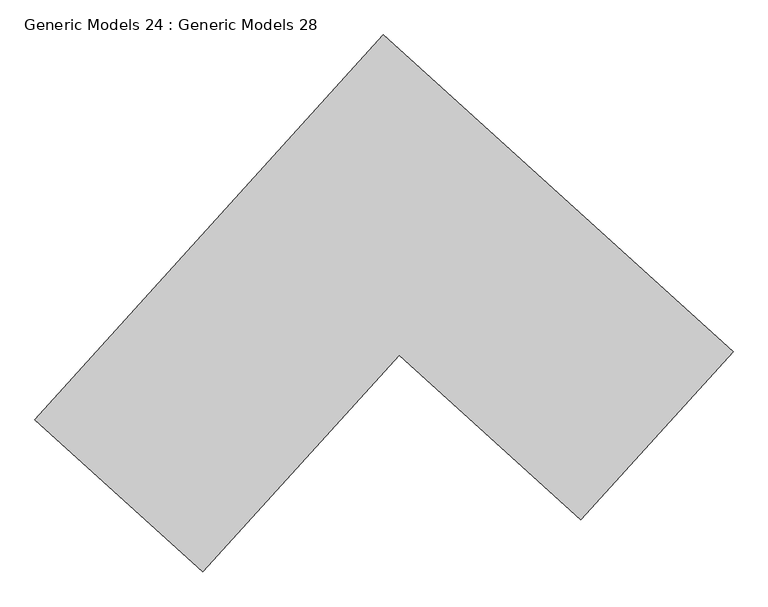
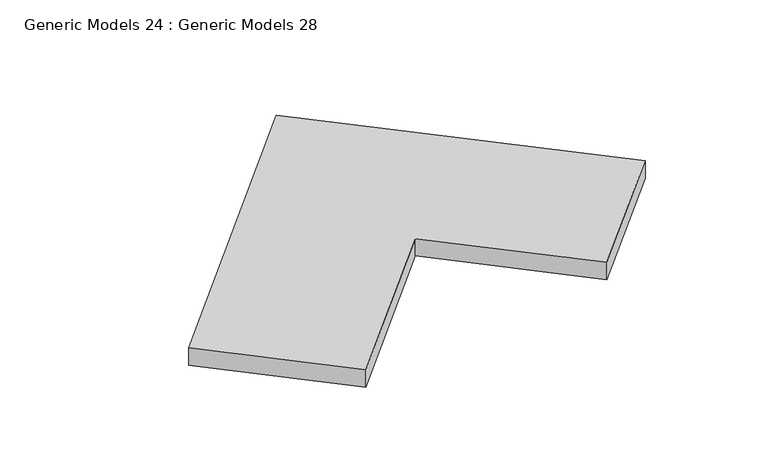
"""IFC4 building model written with IfcOpenShell, lengths in millimetres: proxy geometry, Generic Models 24 : Generic Models 28."""

from ifc_helpers import new_model, si_unit, frame, origin, place, context, project, spatial, polyline, outline, extrude, source, transform, mapped, element, save


def generic_models_24_generic_models_28_0ec2bc95(model_context):
    return source(origin(), model_context, "Body", "SweptSolid", [
        extrude(outline(polyline([(-9910.8597955, -1016.0691048), (-8985.0968278, -1854.3227621), (-9387.8187757, -2299.0867812), (-9868.8177243, -1863.5550718), (-10388.2547241, -2437.2185855), (-10833.0187432, -2034.4966376), (-9910.8597955, -1016.0691048)])), frame((0.0, 0.0, 830.0), z_axis=(0.0, 0.0, 1.0), x_axis=(1.0, 0.0, 0.0)), (0.0, 0.0, 1.0), 70.0),
    ])


if __name__ == "__main__":
    model = new_model("IFC4")
    model_context = context("Model", 3, world=origin())
    ifc_project = project(units=[si_unit("LENGTHUNIT", "METRE", prefix="MILLI")], contexts=[model_context])
    site = spatial("IfcSite", under=ifc_project)
    building = spatial("IfcBuilding", under=site)
    placement = place(None, origin())
    generic_models_24_generic_models_28_shape = generic_models_24_generic_models_28_0ec2bc95(model_context)
    element("IfcBuildingElementProxy", 1, Name="Generic Models 24 : Generic Models 28", ObjectType="Generic Models 24 : Generic Models 28", at=placement, inside=building, context=model_context, shape_type="MappedRepresentation", body=[
        mapped(generic_models_24_generic_models_28_shape, transform((0.0, 0.0, 0.0), x_axis=(1.0, 0.0, 0.0), y_axis=(0.0, 1.0, 0.0), z_axis=(0.0, 0.0, 1.0))),
    ])
    save(model, "model.ifc")
